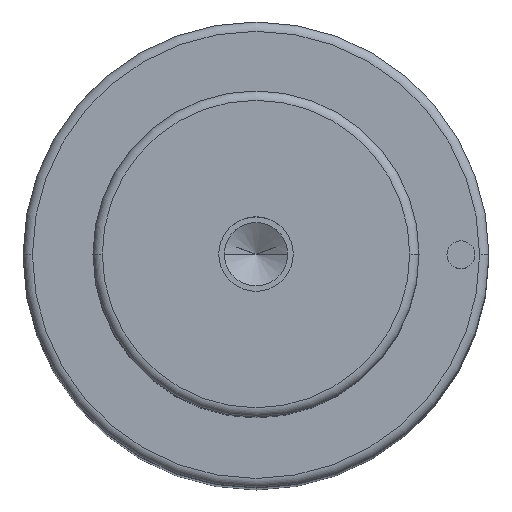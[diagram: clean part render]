
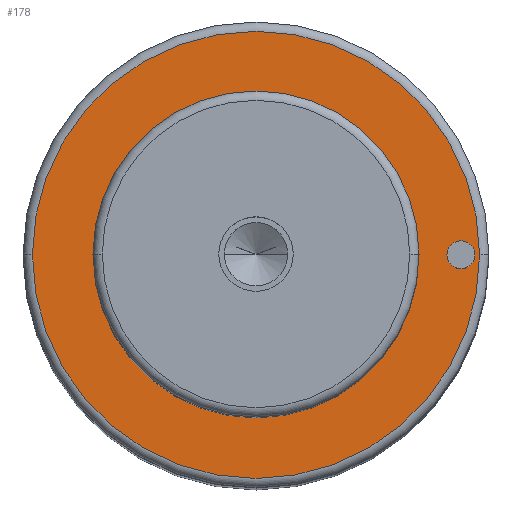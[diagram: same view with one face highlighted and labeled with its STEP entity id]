
A CAD part, top view. The second image highlights one B-rep face of the part: STEP entity #178.
In plain terms, the highlighted planar face has unit normal (0, 0, 1).
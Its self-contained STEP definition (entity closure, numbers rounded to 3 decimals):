
#105=PLANE('',#866);
#115=FACE_BOUND('',#283,.T.);
#116=FACE_BOUND('',#284,.T.);
#117=FACE_BOUND('',#285,.T.);
#178=ADVANCED_FACE('',(#115,#116,#117),#105,.T.);
#283=EDGE_LOOP('',(#473,#474));
#284=EDGE_LOOP('',(#475,#476));
#285=EDGE_LOOP('',(#477,#478));
#333=CIRCLE('',#834,17.5);
#334=CIRCLE('',#836,17.5);
#338=CIRCLE('',#841,24.);
#339=CIRCLE('',#843,24.);
#351=CIRCLE('',#864,1.5);
#352=CIRCLE('',#865,1.5);
#473=ORIENTED_EDGE('',*,*,#666,.F.);
#474=ORIENTED_EDGE('',*,*,#667,.F.);
#475=ORIENTED_EDGE('',*,*,#685,.F.);
#476=ORIENTED_EDGE('',*,*,#686,.F.);
#477=ORIENTED_EDGE('',*,*,#662,.T.);
#478=ORIENTED_EDGE('',*,*,#660,.T.);
#590=VERTEX_POINT('',#1233);
#591=VERTEX_POINT('',#1235);
#592=VERTEX_POINT('',#1241);
#595=VERTEX_POINT('',#1246);
#604=VERTEX_POINT('',#1285);
#605=VERTEX_POINT('',#1286);
#660=EDGE_CURVE('',#591,#590,#333,.T.);
#662=EDGE_CURVE('',#590,#591,#334,.T.);
#666=EDGE_CURVE('',#595,#592,#338,.T.);
#667=EDGE_CURVE('',#592,#595,#339,.T.);
#685=EDGE_CURVE('',#604,#605,#351,.T.);
#686=EDGE_CURVE('',#605,#604,#352,.T.);
#834=AXIS2_PLACEMENT_3D('',#1234,#985,#986);
#836=AXIS2_PLACEMENT_3D('',#1238,#990,#991);
#841=AXIS2_PLACEMENT_3D('',#1247,#1000,#1001);
#843=AXIS2_PLACEMENT_3D('',#1249,#1004,#1005);
#864=AXIS2_PLACEMENT_3D('',#1284,#1052,#1053);
#865=AXIS2_PLACEMENT_3D('',#1287,#1054,#1055);
#866=AXIS2_PLACEMENT_3D('',#1288,#1056,#1057);
#985=DIRECTION('',(0.,0.,-1.));
#986=DIRECTION('',(0.,1.,0.));
#990=DIRECTION('',(0.,0.,-1.));
#991=DIRECTION('',(0.,-1.,0.));
#1000=DIRECTION('',(0.,0.,-1.));
#1001=DIRECTION('',(0.,1.,0.));
#1004=DIRECTION('',(0.,0.,-1.));
#1005=DIRECTION('',(0.,-1.,0.));
#1052=DIRECTION('',(0.,0.,1.));
#1053=DIRECTION('',(0.,1.,0.));
#1054=DIRECTION('',(0.,0.,1.));
#1055=DIRECTION('',(0.,-1.,0.));
#1056=DIRECTION('',(0.,0.,1.));
#1057=DIRECTION('',(0.,-1.,0.));
#1233=CARTESIAN_POINT('',(-17.5,0.,138.));
#1234=CARTESIAN_POINT('',(0.,0.,138.));
#1235=CARTESIAN_POINT('',(17.5,0.,138.));
#1238=CARTESIAN_POINT('',(0.,0.,138.));
#1241=CARTESIAN_POINT('',(-24.,0.,138.));
#1246=CARTESIAN_POINT('',(24.,0.,138.));
#1247=CARTESIAN_POINT('',(0.,0.,138.));
#1249=CARTESIAN_POINT('',(0.,0.,138.));
#1284=CARTESIAN_POINT('',(22.,0.,138.));
#1285=CARTESIAN_POINT('',(20.5,0.,138.));
#1286=CARTESIAN_POINT('',(23.5,0.,138.));
#1287=CARTESIAN_POINT('',(22.,0.,138.));
#1288=CARTESIAN_POINT('',(0.,0.,138.));
